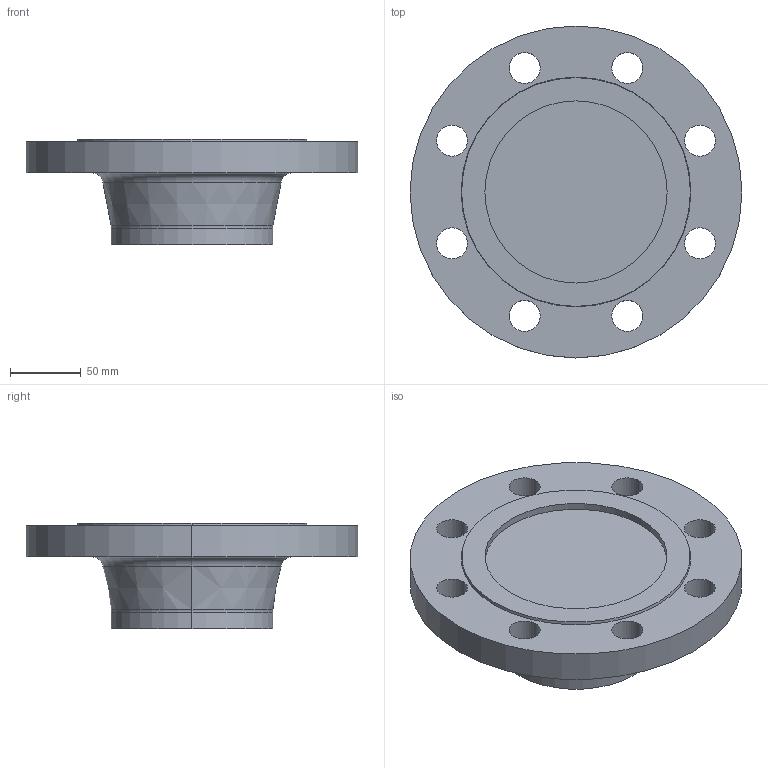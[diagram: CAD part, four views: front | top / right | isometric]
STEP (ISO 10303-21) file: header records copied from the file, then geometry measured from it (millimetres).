
FILE_DESCRIPTION (( 'STEP AP214' ), '1' );
FILE_NAME ('PN40 DN100 Type 21(ii) - Type G Face.STEP', '2019-01-02T00:11:55', ( '' ), ( '' ), 'SwSTEP 2.0', 'SolidWorks 2019', '' );
FILE_SCHEMA (( 'AUTOMOTIVE_DESIGN' ));
Length unit declared in the file: millimetre
Products named in the file (1): PN40 DN100 Type 21(ii) - Type G Face
Bounding box: 235 x 235 x 75 mm (x, y, z)
Volume: 1441947.1 mm3; surface area: 127771.1 mm2
Topology: 1 solids, 1 shells, 35 faces, 84 edges, 54 vertices
Faces by surface type: cylinder 22, plane 5, torus 4, cone 4
Entity records: 1114 total; most frequent: DIRECTION 214, CARTESIAN_POINT 174, ORIENTED_EDGE 168, AXIS2_PLACEMENT_3D 94, EDGE_CURVE 84, CIRCLE 58, EDGE_LOOP 54, VERTEX_POINT 54
